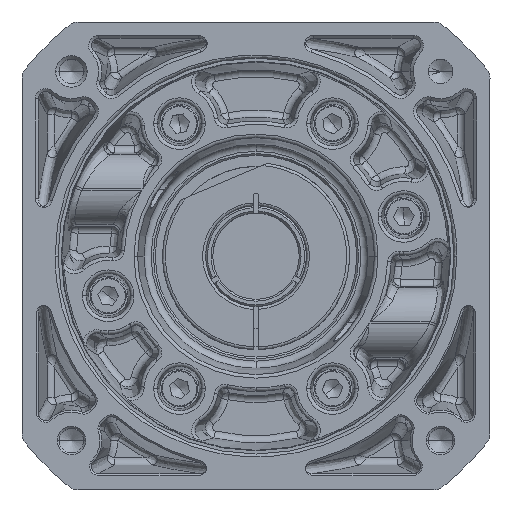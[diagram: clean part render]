
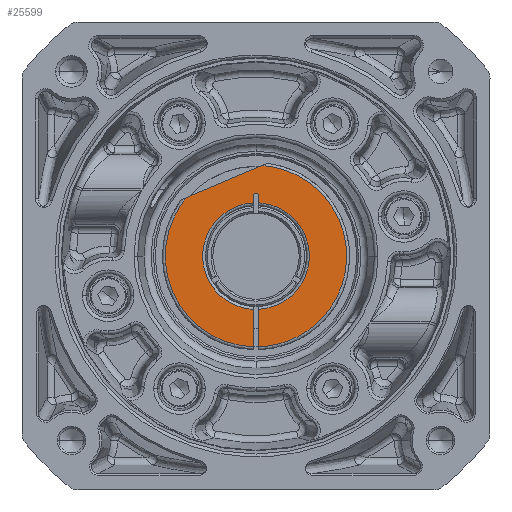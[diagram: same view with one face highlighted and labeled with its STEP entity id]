
A CAD part, top view. The second image highlights one B-rep face of the part: STEP entity #25599.
In plain terms, the highlighted planar face has unit normal (0, 0, 1) as drawn and (0, 0, -1) by its records, which use the part's own axes.
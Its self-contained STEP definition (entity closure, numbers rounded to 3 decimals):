
#664 = CARTESIAN_POINT ( 'NONE',  ( -33.903, 0.6, 0. ) ) ;
#829 = CARTESIAN_POINT ( 'NONE',  ( -14.788, 0.6, 0. ) ) ;
#2037 = DIRECTION ( 'NONE',  ( 0., 0., -1. ) ) ;
#2268 = CARTESIAN_POINT ( 'NONE',  ( 17.5, 0.2, 0. ) ) ;
#2795 = CARTESIAN_POINT ( 'NONE',  ( -24.093, 46.8, 0. ) ) ;
#3221 = ORIENTED_EDGE ( 'NONE', *, *, #52736, .T. ) ;
#3692 = EDGE_CURVE ( 'NONE', #7312, #49728, #40994, .T. ) ;
#3728 = PLANE ( 'NONE',  #9285 ) ;
#4147 = VERTEX_POINT ( 'NONE', #12906 ) ;
#5546 = DIRECTION ( 'NONE',  ( 0., 1., 0. ) ) ;
#5556 = CARTESIAN_POINT ( 'NONE',  ( -14.788, -0.6, 0. ) ) ;
#5623 = CARTESIAN_POINT ( 'NONE',  ( 17.5, 0.6, 0. ) ) ;
#5668 = CARTESIAN_POINT ( 'NONE',  ( -13.679, -27.935, 0. ) ) ;
#5734 = CARTESIAN_POINT ( 'NONE',  ( 14.788, -0.6, 0. ) ) ;
#5807 = CARTESIAN_POINT ( 'NONE',  ( 13.679, -27.935, 0. ) ) ;
#6109 = CARTESIAN_POINT ( 'NONE',  ( 17.1, 0.6, 0. ) ) ;
#6961 = VECTOR ( 'NONE', #5546, 1000. ) ;
#6973 = EDGE_CURVE ( 'NONE', #4147, #49882, #14895, .T. ) ;
#7153 = CARTESIAN_POINT ( 'NONE',  ( 25.146, 1.655, 0. ) ) ;
#7312 = VERTEX_POINT ( 'NONE', #49314 ) ;
#7830 = EDGE_CURVE ( 'NONE', #50635, #17717, #21660, .T. ) ;
#7902 = ORIENTED_EDGE ( 'NONE', *, *, #15357, .T. ) ;
#8111 = DIRECTION ( 'NONE',  ( 1., 0., 0. ) ) ;
#9285 = AXIS2_PLACEMENT_3D ( 'NONE', #45848, #33506, #8111 ) ;
#9402 = CARTESIAN_POINT ( 'NONE',  ( 25.146, 1.655, 0. ) ) ;
#10863 = VERTEX_POINT ( 'NONE', #20494 ) ;
#11965 = ORIENTED_EDGE ( 'NONE', *, *, #47477, .F. ) ;
#12081 = CIRCLE ( 'NONE', #25015, 0.4 ) ;
#12906 = CARTESIAN_POINT ( 'NONE',  ( 14.788, -0.6, 0. ) ) ;
#13076 = EDGE_CURVE ( 'NONE', #7312, #49882, #51934, .T. ) ;
#13157 = VECTOR ( 'NONE', #48247, 1000. ) ;
#13665 = EDGE_LOOP ( 'NONE', ( #42325, #50537, #34999, #7902, #41051, #33331, #25899, #33546, #11965, #32743, #34056, #3221 ) ) ;
#13951 = CIRCLE ( 'NONE', #40304, 0.4 ) ;
#14895 =( BOUNDED_CURVE ( )  B_SPLINE_CURVE ( 3, ( #5734, #5807, #5668, #5556 ),
 .UNSPECIFIED., .F., .T. ) 
 B_SPLINE_CURVE_WITH_KNOTS ( ( 4, 4 ),
 ( 0., 1. ),
 .UNSPECIFIED. ) 
 CURVE ( )  GEOMETRIC_REPRESENTATION_ITEM ( )  RATIONAL_B_SPLINE_CURVE ( ( 1., 0.36, 0.36, 1. ) ) 
 REPRESENTATION_ITEM ( '' )  );
#15357 = EDGE_CURVE ( 'NONE', #50111, #49728, #32963, .T. ) ;
#15666 = EDGE_CURVE ( 'NONE', #48843, #20640, #13951, .T. ) ;
#15863 = DIRECTION ( 'NONE',  ( -1., 0., 0. ) ) ;
#15930 = DIRECTION ( 'NONE',  ( 0., 0., -1. ) ) ;
#15942 = CARTESIAN_POINT ( 'NONE',  ( 17.1, 0.2, 0. ) ) ;
#16074 = EDGE_CURVE ( 'NONE', #53858, #20640, #39957, .T. ) ;
#16396 = CARTESIAN_POINT ( 'NONE',  ( 14.788, 0.6, 0. ) ) ;
#17333 = CARTESIAN_POINT ( 'NONE',  ( -25.193, 0.6, 0. ) ) ;
#17426 =( BOUNDED_CURVE ( )  B_SPLINE_CURVE ( 3, ( #7153, #32599, #2795, #36772 ),
 .UNSPECIFIED., .F., .F. ) 
 B_SPLINE_CURVE_WITH_KNOTS ( ( 4, 4 ),
 ( 0., 1. ),
 .UNSPECIFIED. ) 
 CURVE ( )  GEOMETRIC_REPRESENTATION_ITEM ( )  RATIONAL_B_SPLINE_CURVE ( ( 1., 0.363, 0.363, 1. ) ) 
 REPRESENTATION_ITEM ( '' )  );
#17717 = VERTEX_POINT ( 'NONE', #16396 ) ;
#20494 = CARTESIAN_POINT ( 'NONE',  ( 17.1, -0.6, 0. ) ) ;
#20640 = VERTEX_POINT ( 'NONE', #2268 ) ;
#21660 =( BOUNDED_CURVE ( )  B_SPLINE_CURVE ( 3, ( #43741, #44045, #43557, #43394 ),
 .UNSPECIFIED., .F., .T. ) 
 B_SPLINE_CURVE_WITH_KNOTS ( ( 4, 4 ),
 ( 0., 1. ),
 .UNSPECIFIED. ) 
 CURVE ( )  GEOMETRIC_REPRESENTATION_ITEM ( )  RATIONAL_B_SPLINE_CURVE ( ( 1., 0.36, 0.36, 1. ) ) 
 REPRESENTATION_ITEM ( '' )  );
#21921 = EDGE_CURVE ( 'NONE', #4147, #10863, #38249, .T. ) ;
#22740 = CARTESIAN_POINT ( 'NONE',  ( -33.903, -0.6, 0. ) ) ;
#22928 = DIRECTION ( 'NONE',  ( 1., 0., 0. ) ) ;
#23729 = FACE_OUTER_BOUND ( 'NONE', #13665, .T. ) ;
#24084 = VECTOR ( 'NONE', #26213, 1000. ) ;
#24432 = LINE ( 'NONE', #664, #24084 ) ;
#25015 = AXIS2_PLACEMENT_3D ( 'NONE', #27598, #2037, #31859 ) ;
#25209 = DIRECTION ( 'NONE',  ( -0.391, -0.921, 0. ) ) ;
#25277 = CARTESIAN_POINT ( 'NONE',  ( 29.687, 12.355, 0. ) ) ;
#25599 = ADVANCED_FACE ( 'NONE', ( #23729 ), #3728, .F. ) ;
#25899 = ORIENTED_EDGE ( 'NONE', *, *, #6973, .F. ) ;
#26213 = DIRECTION ( 'NONE',  ( -1., 0., 0. ) ) ;
#27598 = CARTESIAN_POINT ( 'NONE',  ( 17.1, -0.2, 0. ) ) ;
#27631 = CARTESIAN_POINT ( 'NONE',  ( 16.277, -19.238, 0. ) ) ;
#27703 = CARTESIAN_POINT ( 'NONE',  ( -24.612, -24.997, 0. ) ) ;
#27746 = CARTESIAN_POINT ( 'NONE',  ( -2.353, -35.001, 0. ) ) ;
#27927 = CARTESIAN_POINT ( 'NONE',  ( -25.193, -0.6, 0. ) ) ;
#27993 = EDGE_CURVE ( 'NONE', #50635, #38708, #53883, .T. ) ;
#28215 = DIRECTION ( 'NONE',  ( -1., 0., 0. ) ) ;
#28678 = CARTESIAN_POINT ( 'NONE',  ( -14.788, -0.6, 0. ) ) ;
#31130 = VECTOR ( 'NONE', #22928, 1000. ) ;
#31859 = DIRECTION ( 'NONE',  ( -1., 0., 0. ) ) ;
#32551 = VECTOR ( 'NONE', #25209, 1000. ) ;
#32589 = CARTESIAN_POINT ( 'NONE',  ( 16.277, -19.238, 0. ) ) ;
#32599 = CARTESIAN_POINT ( 'NONE',  ( 22.111, 47.769, 0. ) ) ;
#32743 = ORIENTED_EDGE ( 'NONE', *, *, #16074, .T. ) ;
#32963 = LINE ( 'NONE', #25277, #32551 ) ;
#33331 = ORIENTED_EDGE ( 'NONE', *, *, #13076, .T. ) ;
#33506 = DIRECTION ( 'NONE',  ( 0., 0., 1. ) ) ;
#33546 = ORIENTED_EDGE ( 'NONE', *, *, #21921, .T. ) ;
#34056 = ORIENTED_EDGE ( 'NONE', *, *, #15666, .F. ) ;
#34999 = ORIENTED_EDGE ( 'NONE', *, *, #38499, .F. ) ;
#36772 = CARTESIAN_POINT ( 'NONE',  ( -25.193, 0.6, 0. ) ) ;
#38249 = LINE ( 'NONE', #22740, #31130 ) ;
#38499 = EDGE_CURVE ( 'NONE', #50111, #38708, #17426, .T. ) ;
#38708 = VERTEX_POINT ( 'NONE', #17333 ) ;
#39957 = LINE ( 'NONE', #5623, #6961 ) ;
#40304 = AXIS2_PLACEMENT_3D ( 'NONE', #15942, #15930, #15863 ) ;
#40810 = CARTESIAN_POINT ( 'NONE',  ( -33.903, 0.6, 0. ) ) ;
#40994 =( BOUNDED_CURVE ( )  B_SPLINE_CURVE ( 3, ( #27927, #27703, #27746, #27631 ),
 .UNSPECIFIED., .F., .F. ) 
 B_SPLINE_CURVE_WITH_KNOTS ( ( 4, 4 ),
 ( 0., 1. ),
 .UNSPECIFIED. ) 
 CURVE ( )  GEOMETRIC_REPRESENTATION_ITEM ( )  RATIONAL_B_SPLINE_CURVE ( ( 1., 0.621, 0.621, 1. ) ) 
 REPRESENTATION_ITEM ( '' )  );
#41051 = ORIENTED_EDGE ( 'NONE', *, *, #3692, .F. ) ;
#42325 = ORIENTED_EDGE ( 'NONE', *, *, #7830, .F. ) ;
#42699 = VECTOR ( 'NONE', #28215, 1000. ) ;
#43394 = CARTESIAN_POINT ( 'NONE',  ( 14.788, 0.6, 0. ) ) ;
#43557 = CARTESIAN_POINT ( 'NONE',  ( 13.679, 27.935, 0. ) ) ;
#43741 = CARTESIAN_POINT ( 'NONE',  ( -14.788, 0.6, 0. ) ) ;
#44045 = CARTESIAN_POINT ( 'NONE',  ( -13.679, 27.935, 0. ) ) ;
#45677 = CARTESIAN_POINT ( 'NONE',  ( 17.5, -0.2, 0. ) ) ;
#45848 = CARTESIAN_POINT ( 'NONE',  ( 0., 0., 0. ) ) ;
#47477 = EDGE_CURVE ( 'NONE', #53858, #10863, #12081, .T. ) ;
#48247 = DIRECTION ( 'NONE',  ( 1., 0., 0. ) ) ;
#48843 = VERTEX_POINT ( 'NONE', #6109 ) ;
#49314 = CARTESIAN_POINT ( 'NONE',  ( -25.193, -0.6, 0. ) ) ;
#49728 = VERTEX_POINT ( 'NONE', #32589 ) ;
#49882 = VERTEX_POINT ( 'NONE', #28678 ) ;
#50111 = VERTEX_POINT ( 'NONE', #9402 ) ;
#50151 = CARTESIAN_POINT ( 'NONE',  ( -33.903, -0.6, 0. ) ) ;
#50537 = ORIENTED_EDGE ( 'NONE', *, *, #27993, .T. ) ;
#50635 = VERTEX_POINT ( 'NONE', #829 ) ;
#51934 = LINE ( 'NONE', #50151, #13157 ) ;
#52736 = EDGE_CURVE ( 'NONE', #48843, #17717, #24432, .T. ) ;
#53858 = VERTEX_POINT ( 'NONE', #45677 ) ;
#53883 = LINE ( 'NONE', #40810, #42699 ) ;
